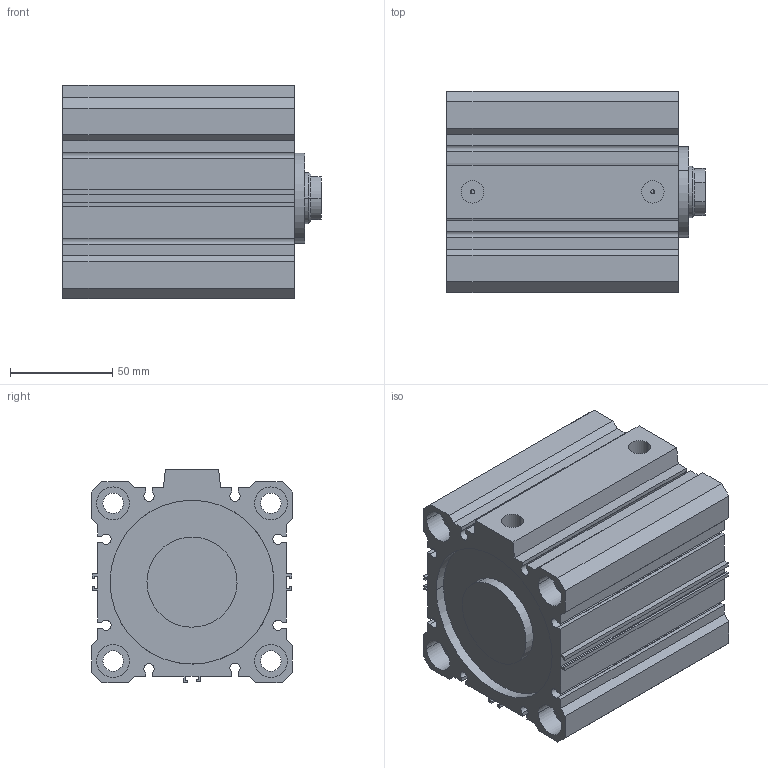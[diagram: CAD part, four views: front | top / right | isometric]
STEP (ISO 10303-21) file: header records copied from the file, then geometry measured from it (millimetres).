
FILE_DESCRIPTION(('CATIA V5 STEP Exchange'),'2;1');
FILE_NAME('D:\PDA\PDA-STP\PDA 80-25\PDA 80-25-60.stp','2016-02-02T11:04:24+00:00',('none'),('none'),'Version 5-6 Release 2012','CATIA V5 STEP AP203','none');
FILE_SCHEMA(('CONFIG_CONTROL_DESIGN'));
Length unit declared in the file: millimetre
Products named in the file (1): PDA 80-25-60-00
Assembly tree (2 placements, depth 2):
  PDA 80-25-60-00
    #58
    #4703
Bounding box: 126 x 98 x 104 mm (x, y, z)
Volume: 611263.3 mm3; surface area: 155380.4 mm2
Topology: 2 solids, 2 shells, 180 faces, 476 edges, 316 vertices
Faces by surface type: plane 114, cylinder 64, cone 2
Entity records: 5172 total; most frequent: ORIENTED_EDGE 952, CARTESIAN_POINT 931, DIRECTION 674, EDGE_CURVE 476, VECTOR 334, LINE 334, VERTEX_POINT 316, AXIS2_PLACEMENT_3D 237
